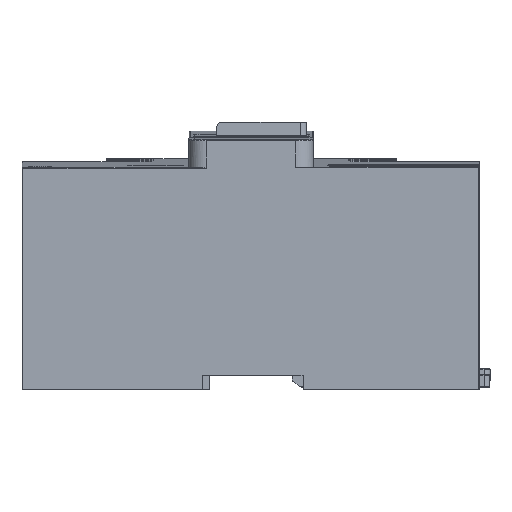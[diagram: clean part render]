
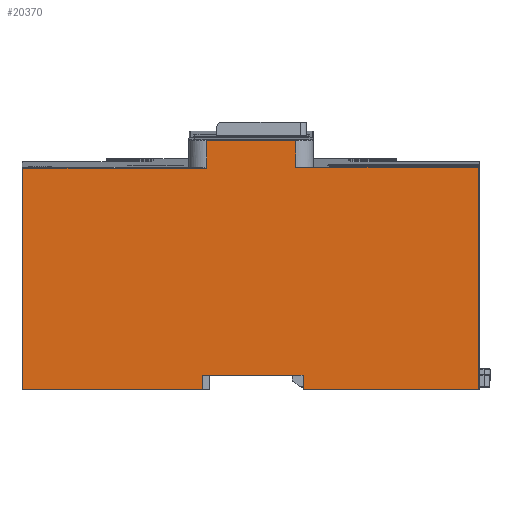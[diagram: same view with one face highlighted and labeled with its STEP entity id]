
A CAD part, left-side view. The second image highlights one B-rep face of the part: STEP entity #20370.
In plain terms, the highlighted planar face has unit normal (-1, 0, 0).
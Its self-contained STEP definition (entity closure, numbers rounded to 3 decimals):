
#14=DIRECTION('',(0.,-1.,0.));
#15=VECTOR('',#14,63.113);
#16=CARTESIAN_POINT('',(0.,67.213,0.));
#17=LINE('',#16,#15);
#18=DIRECTION('',(0.,0.,1.));
#19=VECTOR('',#18,80.003);
#20=CARTESIAN_POINT('',(0.,4.1,0.));
#21=LINE('',#20,#19);
#22=DIRECTION('',(0.,0.,1.));
#23=VECTOR('',#22,5.2);
#24=CARTESIAN_POINT('',(0.,67.213,0.));
#25=LINE('',#24,#23);
#26=DIRECTION('',(0.,1.,0.));
#27=VECTOR('',#26,36.175);
#28=CARTESIAN_POINT('',(0.,67.213,5.2));
#29=LINE('',#28,#27);
#34=DIRECTION('',(0.,0.,-1.));
#35=VECTOR('',#34,79.706);
#36=CARTESIAN_POINT('',(0.,167.919,79.706));
#37=LINE('',#36,#35);
#43=DIRECTION('',(0.,-1.,0.));
#44=VECTOR('',#43,64.532);
#45=CARTESIAN_POINT('',(0.,167.919,0.));
#46=LINE('',#45,#44);
#59=DIRECTION('',(0.,0.,1.));
#60=VECTOR('',#59,5.2);
#61=CARTESIAN_POINT('',(0.,103.387,0.));
#62=LINE('',#61,#60);
#773=DIRECTION('',(0.,1.,0.));
#774=VECTOR('',#773,65.769);
#775=CARTESIAN_POINT('',(0.,4.1,80.003));
#776=LINE('',#775,#774);
#2070=DIRECTION('',(0.,1.,0.));
#2071=VECTOR('',#2070,66.024);
#2072=CARTESIAN_POINT('',(0.,101.895,79.706));
#2073=LINE('',#2072,#2071);
#2095=DIRECTION('',(0.,0.,-1.));
#2096=VECTOR('',#2095,9.9);
#2097=CARTESIAN_POINT('',(0.,101.895,89.606));
#2098=LINE('',#2097,#2096);
#2228=DIRECTION('',(0.,0.,1.));
#2229=VECTOR('',#2228,9.603);
#2230=CARTESIAN_POINT('',(0.,69.869,80.003));
#2231=LINE('',#2230,#2229);
#2372=DIRECTION('',(0.,1.,0.));
#2373=VECTOR('',#2372,32.025);
#2374=CARTESIAN_POINT('',(0.,69.869,89.606));
#2375=LINE('',#2374,#2373);
#8061=CARTESIAN_POINT('',(0.,67.213,0.));
#15883=CARTESIAN_POINT('',(0.,4.1,0.));
#15885=VERTEX_POINT('',#15883);
#15891=VERTEX_POINT('',#8061);
#15892=CARTESIAN_POINT('',(0.,4.1,80.003));
#15893=VERTEX_POINT('',#15892);
#15895=CARTESIAN_POINT('',(0.,167.919,79.706));
#15896=CARTESIAN_POINT('',(0.,167.919,0.));
#15897=VERTEX_POINT('',#15895);
#15898=VERTEX_POINT('',#15896);
#15899=CARTESIAN_POINT('',(0.,101.895,79.706));
#15900=VERTEX_POINT('',#15899);
#15901=CARTESIAN_POINT('',(0.,101.895,
89.606));
#15902=VERTEX_POINT('',#15901);
#15903=CARTESIAN_POINT('',(0.,69.869,
89.606));
#15904=VERTEX_POINT('',#15903);
#15905=CARTESIAN_POINT('',(0.,69.869,80.003));
#15906=VERTEX_POINT('',#15905);
#15907=CARTESIAN_POINT('',(0.,67.213,5.2));
#15908=VERTEX_POINT('',#15907);
#15909=CARTESIAN_POINT('',(0.,103.387,5.2));
#15910=VERTEX_POINT('',#15909);
#15911=CARTESIAN_POINT('',(0.,103.387,0.));
#15912=VERTEX_POINT('',#15911);
#20341=CARTESIAN_POINT('',(0.,168.219,0.));
#20342=DIRECTION('',(-1.,0.,0.));
#20343=DIRECTION('',(0.,-1.,0.));
#20344=AXIS2_PLACEMENT_3D('',#20341,#20342,#20343);
#20345=PLANE('',#20344);
#20347=ORIENTED_EDGE('',*,*,#20346,.F.);
#20349=ORIENTED_EDGE('',*,*,#20348,.F.);
#20351=ORIENTED_EDGE('',*,*,#20350,.F.);
#20353=ORIENTED_EDGE('',*,*,#20352,.F.);
#20355=ORIENTED_EDGE('',*,*,#20354,.F.);
#20357=ORIENTED_EDGE('',*,*,#20356,.F.);
#20358=ORIENTED_EDGE('',*,*,#20332,.F.);
#20359=ORIENTED_EDGE('',*,*,#20321,.F.);
#20361=ORIENTED_EDGE('',*,*,#20360,.T.);
#20363=ORIENTED_EDGE('',*,*,#20362,.T.);
#20365=ORIENTED_EDGE('',*,*,#20364,.F.);
#20367=ORIENTED_EDGE('',*,*,#20366,.F.);
#20368=EDGE_LOOP('',(#20347,#20349,#20351,#20353,#20355,#20357,#20358,#20359,
#20361,#20363,#20365,#20367));
#20369=FACE_OUTER_BOUND('',#20368,.F.);
#20370=ADVANCED_FACE('',(#20369),#20345,.T.);
#20321=EDGE_CURVE('',#15891,#15885,#17,.T.);
#20332=EDGE_CURVE('',#15885,#15893,#21,.T.);
#20346=EDGE_CURVE('',#15897,#15898,#37,.T.);
#20348=EDGE_CURVE('',#15900,#15897,#2073,.T.);
#20350=EDGE_CURVE('',#15902,#15900,#2098,.T.);
#20352=EDGE_CURVE('',#15904,#15902,#2375,.T.);
#20354=EDGE_CURVE('',#15906,#15904,#2231,.T.);
#20356=EDGE_CURVE('',#15893,#15906,#776,.T.);
#20360=EDGE_CURVE('',#15891,#15908,#25,.T.);
#20362=EDGE_CURVE('',#15908,#15910,#29,.T.);
#20364=EDGE_CURVE('',#15912,#15910,#62,.T.);
#20366=EDGE_CURVE('',#15898,#15912,#46,.T.);
